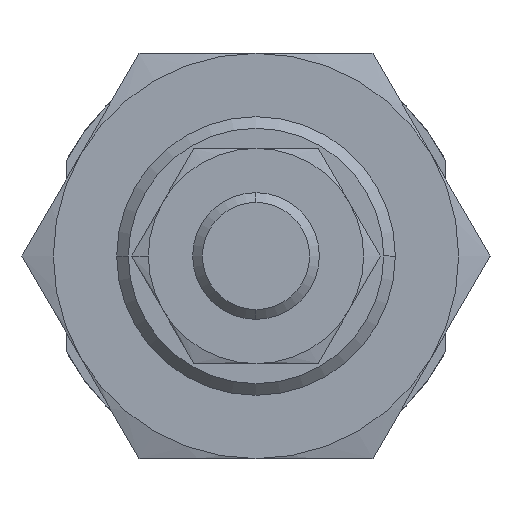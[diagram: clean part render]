
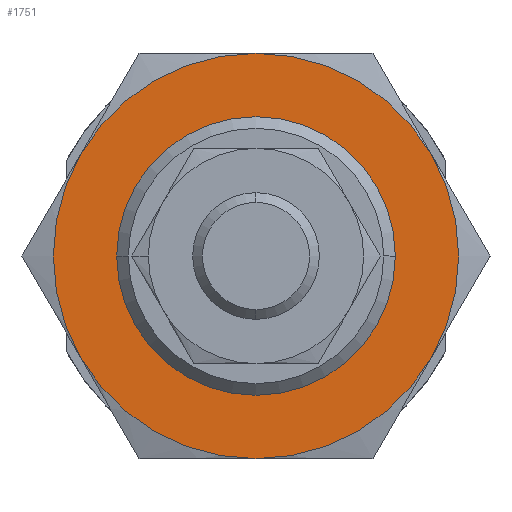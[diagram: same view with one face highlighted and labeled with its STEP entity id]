
A CAD part, left-side view. The second image highlights one B-rep face of the part: STEP entity #1751.
In plain terms, the highlighted planar face has unit normal (-1, 0, 0).
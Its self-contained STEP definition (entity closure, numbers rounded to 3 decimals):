
#36 = EDGE_CURVE ( 'NONE', #449, #2712, #2855, .T. ) ;
#192 = EDGE_CURVE ( 'NONE', #2712, #758, #2935, .T. ) ;
#324 = DIRECTION ( 'NONE',  ( 1., 0., 0. ) ) ;
#413 = CARTESIAN_POINT ( 'NONE',  ( -17.5, 0., 11. ) ) ;
#449 = VERTEX_POINT ( 'NONE', #2610 ) ;
#577 = CARTESIAN_POINT ( 'NONE',  ( -17.5, 13.856, 8. ) ) ;
#655 = DIRECTION ( 'NONE',  ( 0., 0., -1. ) ) ;
#691 = AXIS2_PLACEMENT_3D ( 'NONE', #4040, #3812, #1409 ) ;
#696 = ORIENTED_EDGE ( 'NONE', *, *, #36, .F. ) ;
#758 = VERTEX_POINT ( 'NONE', #1990 ) ;
#867 = DIRECTION ( 'NONE',  ( 0., 0., -1. ) ) ;
#888 = VERTEX_POINT ( 'NONE', #1032 ) ;
#1003 = DIRECTION ( 'NONE',  ( 1., 0., 0. ) ) ;
#1032 = CARTESIAN_POINT ( 'NONE',  ( -17.5, 13.856, -8. ) ) ;
#1039 = DIRECTION ( 'NONE',  ( 0., 0., -1. ) ) ;
#1052 = AXIS2_PLACEMENT_3D ( 'NONE', #1828, #2830, #867 ) ;
#1084 = CIRCLE ( 'NONE', #2627, 11. ) ;
#1139 = DIRECTION ( 'NONE',  ( -1., 0., 0. ) ) ;
#1201 = DIRECTION ( 'NONE',  ( 0., 0., -1. ) ) ;
#1238 = DIRECTION ( 'NONE',  ( 0., 0., -1. ) ) ;
#1258 = VERTEX_POINT ( 'NONE', #4045 ) ;
#1300 = VERTEX_POINT ( 'NONE', #1453 ) ;
#1320 = CARTESIAN_POINT ( 'NONE',  ( -17.5, 0., 0. ) ) ;
#1322 = CIRCLE ( 'NONE', #2284, 16. ) ;
#1343 = CARTESIAN_POINT ( 'NONE',  ( -17.5, -13.856, 8. ) ) ;
#1363 = EDGE_CURVE ( 'NONE', #3832, #1300, #1084, .T. ) ;
#1409 = DIRECTION ( 'NONE',  ( 0., 0., -1. ) ) ;
#1410 = ORIENTED_EDGE ( 'NONE', *, *, #2402, .F. ) ;
#1453 = CARTESIAN_POINT ( 'NONE',  ( -17.5, 0., -11. ) ) ;
#1464 = EDGE_CURVE ( 'NONE', #888, #3911, #1514, .T. ) ;
#1465 = AXIS2_PLACEMENT_3D ( 'NONE', #4065, #4184, #1201 ) ;
#1501 = EDGE_LOOP ( 'NONE', ( #2149, #4258 ) ) ;
#1514 = CIRCLE ( 'NONE', #3103, 16. ) ;
#1668 = CARTESIAN_POINT ( 'NONE',  ( -17.5, 0., 0. ) ) ;
#1751 = ADVANCED_FACE ( 'NONE', ( #2432, #3133 ), #4095, .T. ) ;
#1828 = CARTESIAN_POINT ( 'NONE',  ( -17.5, 0., 0. ) ) ;
#1888 = DIRECTION ( 'NONE',  ( 0., 0., -1. ) ) ;
#1907 = ORIENTED_EDGE ( 'NONE', *, *, #2470, .F. ) ;
#1990 = CARTESIAN_POINT ( 'NONE',  ( -17.5, -13.856, -8. ) ) ;
#2111 = ORIENTED_EDGE ( 'NONE', *, *, #2711, .F. ) ;
#2149 = ORIENTED_EDGE ( 'NONE', *, *, #1363, .T. ) ;
#2284 = AXIS2_PLACEMENT_3D ( 'NONE', #2676, #324, #655 ) ;
#2402 = EDGE_CURVE ( 'NONE', #3911, #449, #3259, .T. ) ;
#2432 = FACE_OUTER_BOUND ( 'NONE', #3700, .T. ) ;
#2453 = DIRECTION ( 'NONE',  ( 0., 0., 1. ) ) ;
#2470 = EDGE_CURVE ( 'NONE', #758, #1258, #2488, .T. ) ;
#2488 = CIRCLE ( 'NONE', #691, 16. ) ;
#2576 = CARTESIAN_POINT ( 'NONE',  ( -17.5, 0., 0. ) ) ;
#2610 = CARTESIAN_POINT ( 'NONE',  ( -17.5, 0., 16. ) ) ;
#2627 = AXIS2_PLACEMENT_3D ( 'NONE', #1320, #3209, #1888 ) ;
#2676 = CARTESIAN_POINT ( 'NONE',  ( -17.5, 0., 0. ) ) ;
#2711 = EDGE_CURVE ( 'NONE', #1258, #888, #1322, .T. ) ;
#2712 = VERTEX_POINT ( 'NONE', #1343 ) ;
#2825 = ORIENTED_EDGE ( 'NONE', *, *, #192, .F. ) ;
#2830 = DIRECTION ( 'NONE',  ( 1., 0., 0. ) ) ;
#2855 = CIRCLE ( 'NONE', #1465, 16. ) ;
#2916 = AXIS2_PLACEMENT_3D ( 'NONE', #3014, #3997, #1039 ) ;
#2935 = CIRCLE ( 'NONE', #1052, 16. ) ;
#2995 = CIRCLE ( 'NONE', #3952, 11. ) ;
#3014 = CARTESIAN_POINT ( 'NONE',  ( -17.5, 0., 0. ) ) ;
#3033 = AXIS2_PLACEMENT_3D ( 'NONE', #4048, #1139, #2453 ) ;
#3103 = AXIS2_PLACEMENT_3D ( 'NONE', #2576, #3274, #1238 ) ;
#3133 = FACE_BOUND ( 'NONE', #1501, .T. ) ;
#3209 = DIRECTION ( 'NONE',  ( 1., 0., 0. ) ) ;
#3259 = CIRCLE ( 'NONE', #2916, 16. ) ;
#3274 = DIRECTION ( 'NONE',  ( 1., 0., 0. ) ) ;
#3306 = ORIENTED_EDGE ( 'NONE', *, *, #1464, .F. ) ;
#3700 = EDGE_LOOP ( 'NONE', ( #3306, #2111, #1907, #2825, #696, #1410 ) ) ;
#3812 = DIRECTION ( 'NONE',  ( 1., 0., 0. ) ) ;
#3832 = VERTEX_POINT ( 'NONE', #413 ) ;
#3911 = VERTEX_POINT ( 'NONE', #577 ) ;
#3943 = DIRECTION ( 'NONE',  ( 0., 0., -1. ) ) ;
#3952 = AXIS2_PLACEMENT_3D ( 'NONE', #1668, #1003, #3943 ) ;
#3997 = DIRECTION ( 'NONE',  ( 1., 0., 0. ) ) ;
#4040 = CARTESIAN_POINT ( 'NONE',  ( -17.5, 0., 0. ) ) ;
#4045 = CARTESIAN_POINT ( 'NONE',  ( -17.5, 0., -16. ) ) ;
#4048 = CARTESIAN_POINT ( 'NONE',  ( -17.5, 16., 0. ) ) ;
#4065 = CARTESIAN_POINT ( 'NONE',  ( -17.5, 0., 0. ) ) ;
#4085 = EDGE_CURVE ( 'NONE', #1300, #3832, #2995, .T. ) ;
#4095 = PLANE ( 'NONE',  #3033 ) ;
#4184 = DIRECTION ( 'NONE',  ( 1., 0., 0. ) ) ;
#4258 = ORIENTED_EDGE ( 'NONE', *, *, #4085, .T. ) ;
